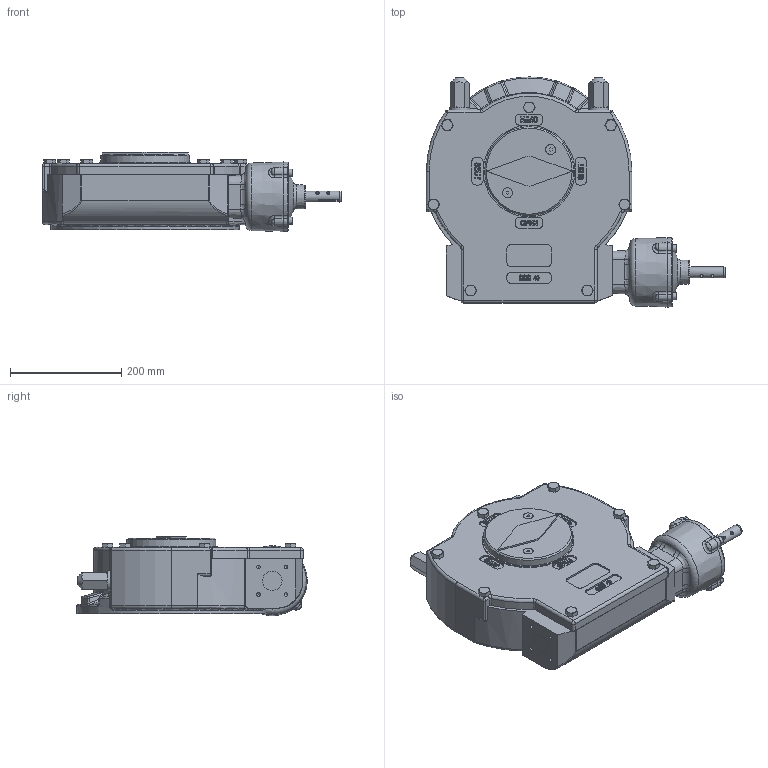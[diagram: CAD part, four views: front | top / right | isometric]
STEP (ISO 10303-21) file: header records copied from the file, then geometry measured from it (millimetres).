
FILE_DESCRIPTION( ( 'Unknown' ), '1' );
FILE_NAME( 'M:/Current Drawings/Internet datasheets/4 - STEP/AB6800W-PR4 LH.stp', 'Unknown', ( 'Unknown' ), ( 'Unknown' ), 'PSStep 15.0.49', 'Unknown', ' ' );
FILE_SCHEMA( ( 'AUTOMOTIVE_DESIGN { 1 0 10303 214 1 1 1 1 }' ) );
Length unit declared in the file: millimetre
Products named in the file (1): 12FZ10P010M00
Bounding box: 539 x 414.69 x 142.59 mm (x, y, z)
Volume: 8947239.6 mm3; surface area: 1155933.4 mm2
Topology: 1 solids, 43 shells, 2549 faces, 6722 edges, 4264 vertices
Faces by surface type: cylinder 838, plane 770, cone 421, torus 304, bspline 98, sphere 80, extrusion 38
Full cylindrical faces by diameter (mm): 6 x2, 6.647 x26, 8 x8, 8.5 x4, 9 x6, 10.106 x14, 12 x7, 13.27 x4, 13.835 x16, 14 x11, 17.294 x18, 17.92 x2, 19 x1, 20 x5, 23 x1, 25 x2, 26 x1, 29 x1, 30 x1, 35 x1, 36 x2, 38 x2, 102 x1, 104.555 x1, 110 x3, 110.25 x1, 125.95 x2, 130 x6, 135 x1, 140 x1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
Entity records: 119646 total; most frequent: CARTESIAN_POINT 40391, ORIENTED_EDGE 12446, DIRECTION 11820, EDGE_CURVE 6223, AXIS2_PLACEMENT_3D 4908, VERTEX_POINT 4139, EDGE_LOOP 2943, FACE_OUTER_BOUND 2733
